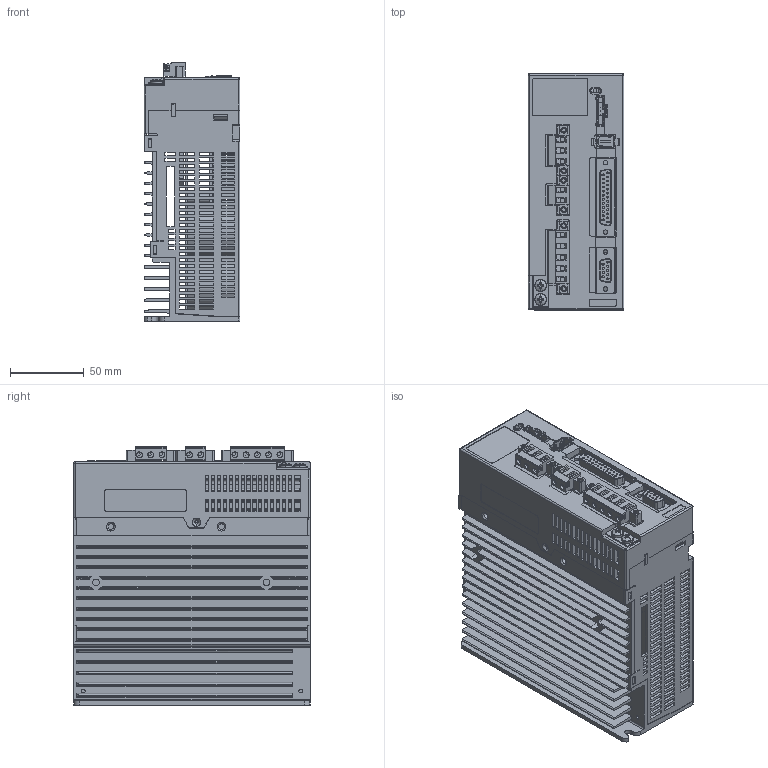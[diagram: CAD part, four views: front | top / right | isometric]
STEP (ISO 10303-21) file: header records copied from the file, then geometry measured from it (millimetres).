
FILE_DESCRIPTION (( 'STEP AP203' ), '1' );
FILE_NAME ('DYN4-H01_publish.STEP', '2010-04-07T04:51:21', ( '' ), ( '' ), 'SwSTEP 2.0', 'SolidWorks 2011', '' );
FILE_SCHEMA (( 'CONFIG_CONTROL_DESIGN' ));
Products named in the file (1): DYN4-H01_publish
Bounding box: 65 x 160 x 175.1 mm (x, y, z)
Surface area: 371323.7 mm2 (no closed solid volume)
Topology: 0 solids, 85 shells, 2398 faces, 9421 edges, 6962 vertices
Faces by surface type: plane 2001, cylinder 348, bspline 30, sphere 9, cone 6, torus 4
Entity records: 102808 total; most frequent: CARTESIAN_POINT 22252, ORIENTED_EDGE 15654, DIRECTION 15634, EDGE_CURVE 9416, LINE 7356, VECTOR 7356, VERTEX_POINT 6962, AXIS2_PLACEMENT_3D 4139
